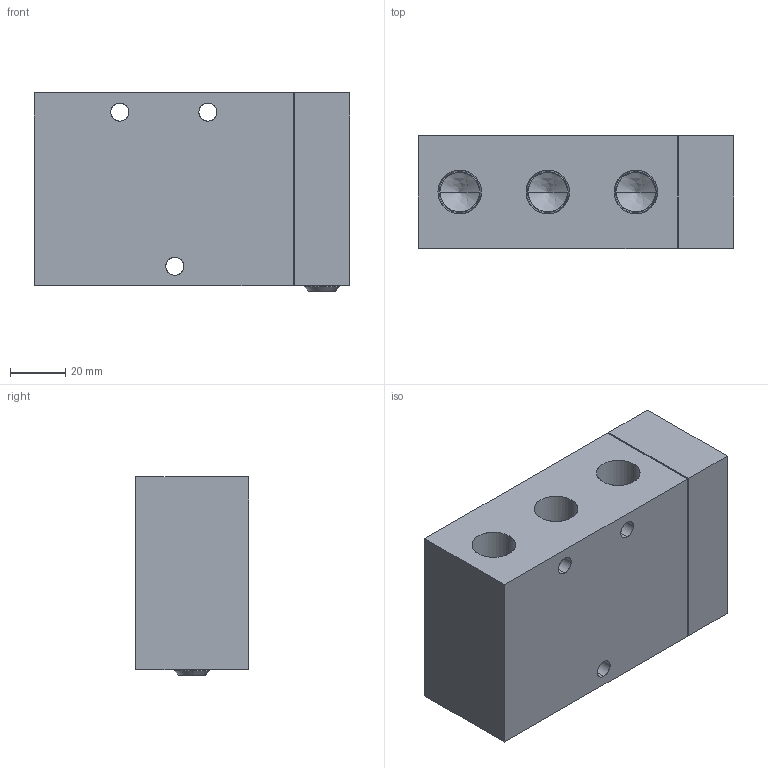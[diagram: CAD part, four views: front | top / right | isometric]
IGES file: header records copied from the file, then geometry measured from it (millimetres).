
Start section: SolidWorks IGES file using analytic representation for surfaces
Global section: file name: D:\Custom\3D繪製\VM\V06,10\VS2410-03.IGS,1; native system: 5HSolidWorks 2014; preprocessor: SolidWorks 2014; author: Chieh_Lu; date: 160114.024004; units: millimetre
Bounding box: 114.5 x 41.15 x 72 mm (x, y, z)
Surface area: 53211.3 mm2 (no closed solid volume)
Topology: 0 solids, 0 shells, 538 faces, 5862 edges, 5833 vertices
Faces by surface type: bspline 391, revolution 147
